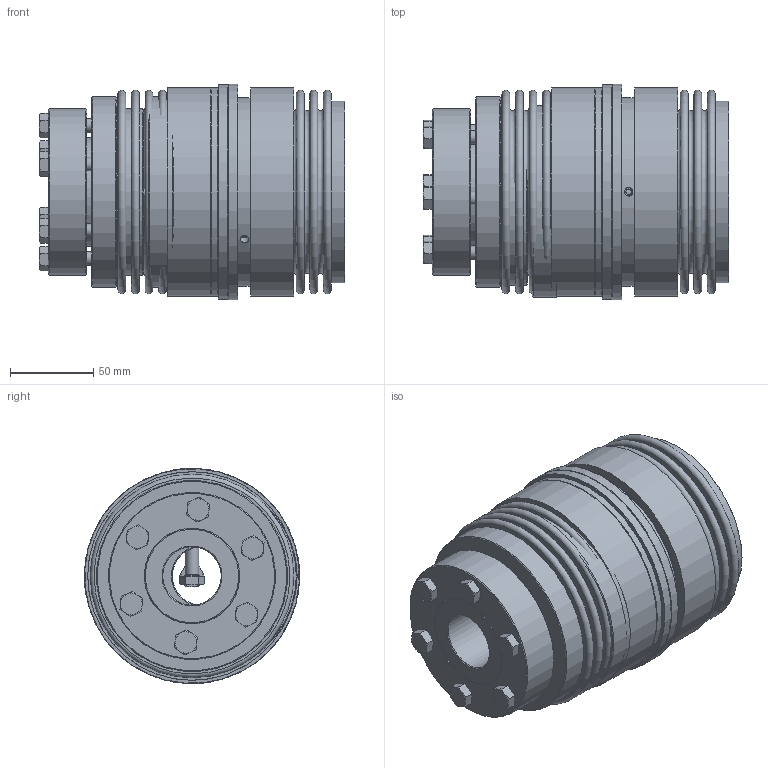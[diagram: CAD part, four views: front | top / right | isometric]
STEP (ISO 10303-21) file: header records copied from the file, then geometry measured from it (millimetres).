
FILE_DESCRIPTION( ( 'Unknown' ), '1' );
FILE_NAME( 'C:/Dokumente und Einstellungen/SKarpstein/Desktop/Korrigierte 3D Modelle/KBK-B-AI/KBK-BAI-500-145.stp', 'Unknown', ( 'Unknown' ), ( 'Unknown' ), 'XStep 1.0', 'Unknown', ' ' );
FILE_SCHEMA( ( 'automotive_design' ) );
Length unit declared in the file: millimetre
Products named in the file (12): Assem1; Assem2; DR500_Standard_0; Hex Screw GradeC_DIN_ISO 4018 - M8 x 40-NN_0; BA500_Standard_0; Stellring 500; Druckring 500; KBK L-I-500 Grundkörper; Konusbuchse 500; din_en_24017_m8x30_1; Flansch BK500; BK500_Standard_0
Bounding box: 182.8 x 129 x 129 mm (x, y, z)
Volume: 1984871.9 mm3; surface area: 636371.4 mm2
Topology: 38 solids, 38 shells, 765 faces, 1609 edges, 1023 vertices
Faces by surface type: plane 333, cone 228, cylinder 165, torus 39
Full cylindrical faces by diameter (mm): 3.242 x6, 5.1 x6, 5.2 x6, 6.647 x18, 6.8 x18, 8 x20, 9 x30, 11.63 x7, 35 x7, 62 x2, 62.6 x2, 65 x4, 65.111 x3, 80 x2, 86 x4, 89 x2, 90 x2, 100 x3, 104.5 x2, 107.7 x4, 108.9 x4, 113 x2, 114 x2, 114.5 x3, 125 x4, 129 x2
Entity records: 5919 total; most frequent: CARTESIAN_POINT 1277, DIRECTION 978, ORIENTED_EDGE 628, AXIS2_PLACEMENT_3D 461, EDGE_LOOP 434, EDGE_CURVE 314, FACE_OUTER_BOUND 300, VERTEX_POINT 266
